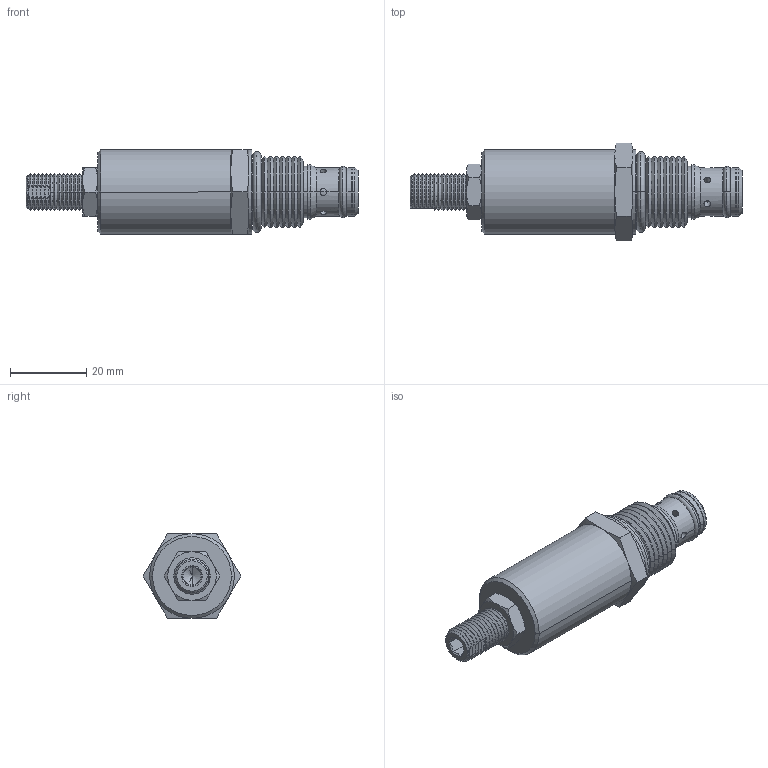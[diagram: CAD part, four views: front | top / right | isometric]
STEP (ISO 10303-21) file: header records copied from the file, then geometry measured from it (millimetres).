
FILE_DESCRIPTION((''),'2;1');
FILE_NAME('U:\Solid model CD\Solid model full\Mechanical\STEP\PBRVD00-3D Full.stp','2008-07-29T09:52:59',('Dan'),(''),'Autodesk Inventor 9','Autodesk Inventor 9','');
FILE_SCHEMA(('AUTOMOTIVE_DESIGN { 1 0 10303 214 1 1 1 1 }'));
Length unit declared in the file: inch
Products named in the file (5): PBRVD00-3D Full; PBRVD00-3D Full1; PBRVD00-3D Full2; PBRVD00-3D Full3; PBRVD00-3D Full4
Assembly tree (4 placements, depth 2):
  PBRVD00-3D Full
    PBRVD00-3D Full1
    PBRVD00-3D Full2
    PBRVD00-3D Full3
    PBRVD00-3D Full4
Bounding box: 87.1 x 25.66 x 22.23 mm (x, y, z)
Volume: 22411.4 mm3; surface area: 7383 mm2
Topology: 4 solids, 4 shells, 232 faces, 504 edges, 281 vertices
Faces by surface type: cone 132, plane 48, cylinder 44, torus 8
Entity records: 6618 total; most frequent: CARTESIAN_POINT 1608, DIRECTION 1080, ORIENTED_EDGE 1004, EDGE_CURVE 502, AXIS2_PLACEMENT_3D 455, VERTEX_POINT 281, EDGE_LOOP 255, FACE_OUTER_BOUND 232
